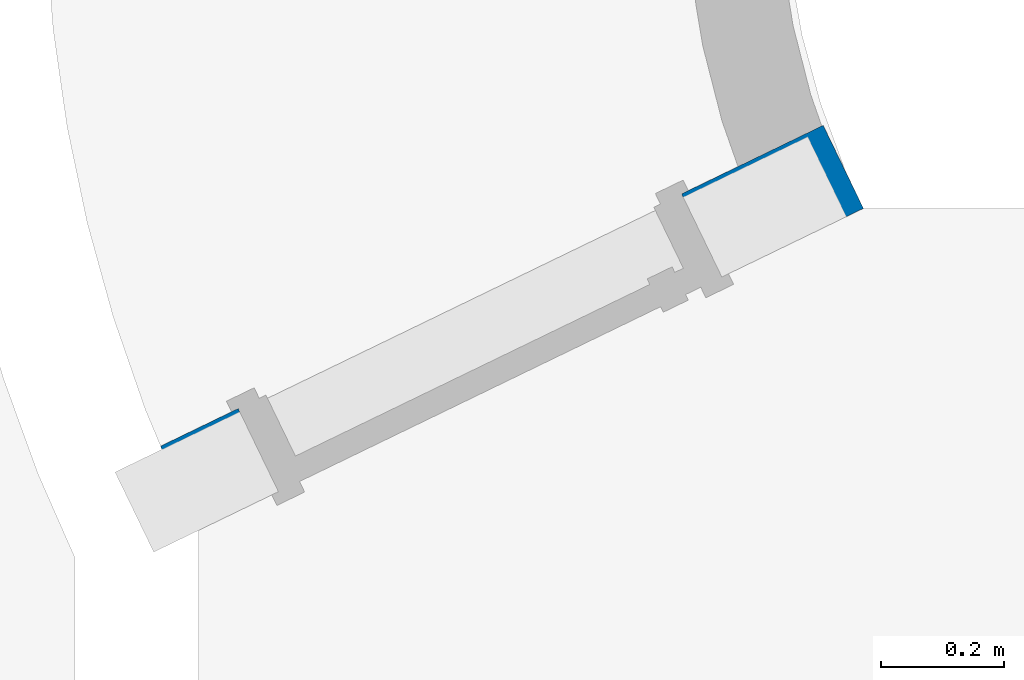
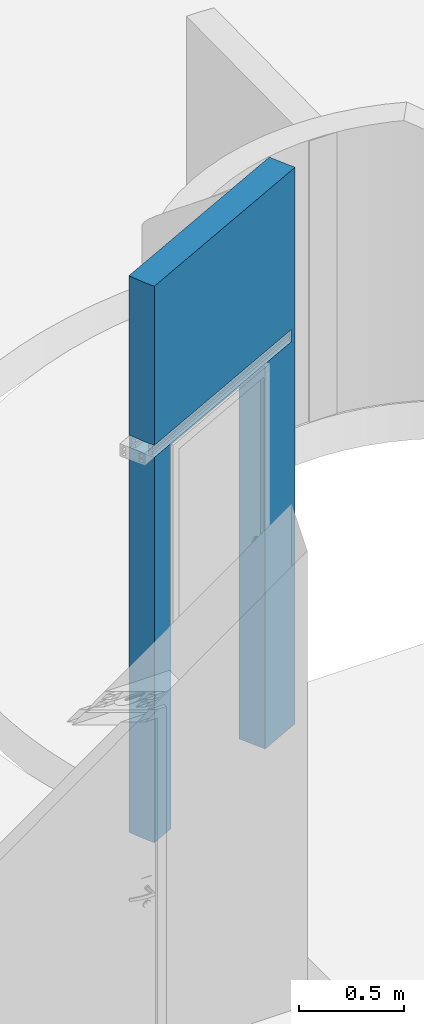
# One storey, part 15 of 21: 1 wall, 1 opening.
"""IFC4 building model written with IfcOpenShell, lengths in millimetres."""

from ifc_helpers import new_model, entity, si_unit, converted_unit, derived_unit, direction, frame, origin_with_axes, place, context, subcontext, project, spatial, polygons, material, constituent, constituent_set, type_object, element, save


model = new_model("IFC4")

# Units and contexts
model_context = context("Model", 3, precision=0.01, world=origin_with_axes(), true_north=direction((0.0, 1.0)))
body_context = subcontext(model_context, "Body", "Model", "MODEL_VIEW")
ifc_project = project(units=[si_unit("LENGTHUNIT", "METRE", prefix="MILLI"), si_unit("AREAUNIT", "SQUARE_METRE"), si_unit("VOLUMEUNIT", "CUBIC_METRE"), converted_unit("PLANEANGLEUNIT", "DEGREE", entity("IfcPlaneAngleMeasure", 0.0174532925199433), si_unit("PLANEANGLEUNIT", "RADIAN"), dimensions=[0, 0, 0, 0, 0, 0, 0]), converted_unit("TIMEUNIT", "Year", entity("IfcTimeMeasure", 31557600.0), si_unit("TIMEUNIT", "SECOND"), dimensions=[0, 0, 1, 0, 0, 0, 0]), si_unit("MASSUNIT", "GRAM", prefix="KILO"), si_unit("THERMODYNAMICTEMPERATUREUNIT", "DEGREE_CELSIUS"), si_unit("LUMINOUSINTENSITYUNIT", "LUMEN"), si_unit("ENERGYUNIT", "JOULE", prefix="MEGA"), derived_unit("THERMALCONDUCTANCEUNIT", [(si_unit("POWERUNIT", "WATT"), 1), (si_unit("LENGTHUNIT", "METRE"), -1), (si_unit("THERMODYNAMICTEMPERATUREUNIT", "KELVIN"), -1)]), derived_unit("SPECIFICHEATCAPACITYUNIT", [(si_unit("ENERGYUNIT", "JOULE"), 1), (si_unit("MASSUNIT", "GRAM", prefix="KILO"), -1), (si_unit("THERMODYNAMICTEMPERATUREUNIT", "KELVIN"), -1)]), derived_unit("MASSDENSITYUNIT", [(si_unit("MASSUNIT", "GRAM", prefix="KILO"), 1), (si_unit("VOLUMEUNIT", "CUBIC_METRE"), -1)])], contexts=[model_context])

# Site, building, storey
site_placement = place(None, origin_with_axes())
site = spatial("IfcSite", under=ifc_project, at=site_placement, Name="Exteriér", CompositionType="ELEMENT")
building_placement = place(site_placement, origin_with_axes())
building = spatial("IfcBuilding", under=site, at=building_placement, Name="Univerzitní lezecké centrum", CompositionType="ELEMENT")
storey_placement = place(building_placement, frame((0.0, 0.0, -3350.0), z_axis=(0.0, 0.0, 1.0), x_axis=(1.0, 0.0, 0.0)))
storey = spatial("IfcBuildingStorey", under=building, at=storey_placement, Name="1.PP", CompositionType="ELEMENT", Elevation=-3350.0)

# Wall, opening
ifc_material = material(Name="Keramické tvárnice nenosné tl. 150 mm")
ifc_constituent = constituent(ifc_material, Name="Keramické tvárnice nenosné tl. 150 mm")
ifc_constituent_set = constituent_set(constituents=[ifc_constituent], Name="!Vnitřní keramická stěna 150 mm - nenosná")
wall_type = type_object("IfcWallType", Name="!Vnitřní keramická stěna 150 mm - nenosná 150", PredefinedType="NOTDEFINED")
wall_placement = place(storey_placement, frame((199.7521361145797, 2610.48075613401, -220.0000000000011), z_axis=(0.0, 0.0, 1.0), x_axis=(0.9000398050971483, 0.4358076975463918, 0.0)))
wall = element("IfcWall", 1, at=wall_placement, inside=storey, type_object=wall_type, material=ifc_constituent_set, Name="Z061", PredefinedType="NOTDEFINED", context=body_context, shape_type="Tessellation", body=[
    polygons([(944.504057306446, 0.0, 220.0000000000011), (944.5040573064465, 0.0, 0.500000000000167), (944.5040573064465, 0.0, 0.0), (1199.999999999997, 0.0, 0.0), (1199.999999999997, 0.0, 3250.0), (-6.479352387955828e-06, -1.720596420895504e-05, 3250.0), (-6.479352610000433e-06, 0.0, 2321.0), (1169.504057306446, 0.0, 2321.0), (1169.504057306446, 0.0, 2250.000000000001), (-6.479352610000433e-06, 0.0, 2250.000000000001), (-6.479352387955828e-06, -1.720596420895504e-05, 0.0), (144.5040573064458, 0.0, 0.0), (144.5040573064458, 0.0, 0.500000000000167), (144.5040573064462, 0.0, 220.0000000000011), (144.5040573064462, 0.0, 2240.000000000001), (944.504057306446, 0.0, 2240.000000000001), (944.504057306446, 149.9999999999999, 220.0000000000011), (944.5040573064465, 150.0000006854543, 0.500000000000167), (944.5040573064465, 150.0000006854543, 0.0), (1199.999999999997, 149.9999999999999, 0.0), (1199.999999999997, 149.9999999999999, 3250.0), (4.462433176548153, 149.9999999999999, 3250.000000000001), (-0.6241186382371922, 56.36482273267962, 3250.000000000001), (-0.6241186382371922, 56.36482273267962, 2321.0), (1169.504057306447, 144.274998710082, 2321.0), (4.151433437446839, 144.2749987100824, 2321.0), (1169.504057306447, 144.274998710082, 2250.000000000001), (1169.504057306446, 33.33249999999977, 2280.499637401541), (1169.504057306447, 11.44250000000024, 2280.499637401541), (1169.504057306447, 11.44250000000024, 2260.499637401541), (1169.504057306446, 33.33249999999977, 2260.499637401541), (1169.504057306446, 33.33249999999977, 2310.500000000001), (1169.504057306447, 11.44250000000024, 2310.500000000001), (1169.504057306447, 11.44250000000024, 2290.5), (1169.504057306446, 33.33249999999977, 2290.5), (1169.504057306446, 110.9413637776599, 2280.499637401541), (1169.504057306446, 110.9413637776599, 2260.499637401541), (1169.504057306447, 132.8313637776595, 2260.499637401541), (1169.504057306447, 132.8313637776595, 2280.499637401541), (1169.504057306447, 132.8313637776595, 2290.5), (1169.504057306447, 132.8313637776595, 2310.500000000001), (1169.504057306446, 110.9413637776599, 2310.500000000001), (1169.504057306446, 110.9413637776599, 2290.5), (4.151433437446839, 144.2749987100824, 2250.000000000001), (-0.6241186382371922, 56.36482273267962, 2250.000000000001), (-0.6241186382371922, 56.36482273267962, 0.0), (4.462433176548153, 149.9999999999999, 0.0), (144.5040573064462, 150.0000006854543, 0.0), (144.5040573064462, 150.0000006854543, 0.500000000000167), (144.5040573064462, 149.9999999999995, 220.0000000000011), (144.5040573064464, 149.9999999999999, 2240.000000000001), (944.5040573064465, 150.0000000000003, 2240.000000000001), (-0.3690920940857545, 33.33250000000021, 2280.499637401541), (-0.1267076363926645, 11.4424999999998, 2280.499637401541), (-0.1267076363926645, 11.4424999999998, 2260.499637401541), (-0.3690920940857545, 33.33250000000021, 2260.499637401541), (-0.3690920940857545, 33.33250000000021, 2310.500000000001), (-0.1267076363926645, 11.4424999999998, 2310.500000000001), (-0.1267076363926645, 11.4424999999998, 2290.5), (-0.3690920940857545, 33.33250000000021, 2290.5), (2.34064751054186, 110.9413637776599, 2280.499637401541), (2.34064751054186, 110.9413637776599, 2260.499637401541), (3.529779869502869, 132.8313637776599, 2260.499637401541), (3.529779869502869, 132.8313637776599, 2280.499637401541), (3.529779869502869, 132.8313637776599, 2290.5), (3.529779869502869, 132.8313637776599, 2310.500000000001), (2.34064751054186, 110.9413637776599, 2310.500000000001), (2.34064751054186, 110.9413637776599, 2290.5)], [[[1, 2, 3, 4, 5, 6, 7, 8, 9, 10, 11, 12, 13, 14, 15, 16]], [[17, 18, 2, 1]], [[19, 3, 2, 18]], [[4, 3, 19, 20]], [[21, 5, 4, 20]], [[5, 21, 22, 23, 6]], [[6, 23, 24, 7]], [[25, 8, 7, 24, 26]], [[9, 8, 25, 27], [28, 29, 30, 31], [32, 33, 34, 35], [36, 37, 38, 39], [40, 41, 42, 43]], [[44, 45, 10, 9, 27]], [[46, 11, 10, 45]], [[47, 48, 12, 11, 46]], [[48, 49, 13, 12]], [[14, 13, 49, 50]], [[14, 50, 51, 15]], [[15, 51, 52, 16]], [[16, 52, 17, 1]], [[20, 19, 18, 17, 52, 51, 50, 49, 48, 47, 22, 21]], [[44, 26, 24, 23, 22, 47, 46, 45]], [[27, 25, 26, 44]], [[29, 28, 53, 54]], [[30, 29, 54, 55]], [[31, 30, 55, 56]], [[28, 31, 56, 53]], [[33, 32, 57, 58]], [[34, 33, 58, 59]], [[35, 34, 59, 60]], [[32, 35, 60, 57]], [[37, 36, 61, 62]], [[38, 37, 62, 63]], [[39, 38, 63, 64]], [[36, 39, 64, 61]], [[41, 40, 65, 66]], [[42, 41, 66, 67]], [[43, 42, 67, 68]], [[40, 43, 68, 65]], [[54, 53, 56, 55]], [[58, 57, 60, 59]], [[61, 64, 63, 62]], [[67, 66, 65, 68]]], closed=True),
])
opening_placement = place(wall_placement, frame((544.5040573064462, 0.0, 220.0000000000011), z_axis=(0.0, 0.0, 1.0), x_axis=(1.0, 0.0, 0.0)))
element("IfcOpeningElement", 2, at=opening_placement, cuts=wall, Name="D06", context=body_context, identifier="Reference", shape_type="Tessellation", body=[
    polygons([(399.9999999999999, 149.9999999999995, 0.0), (399.9999999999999, 149.999999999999, 2020.0), (400.0000000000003, 0.0, 2020.0), (399.9999999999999, 0.0, 0.0), (-399.9999999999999, 149.999999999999, 2020.0), (412.0000000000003, 149.9999999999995, 0.0), (411.9999999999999, 149.999999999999, 2032.0), (-411.9999999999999, 149.9999999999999, 2032.0), (-411.9999999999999, 149.9999999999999, 0.0), (-399.9999999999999, 149.9999999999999, 0.0), (-399.9999999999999, 0.0, 2020.0), (-400.0000000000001, 0.0, 0.0), (-411.9999999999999, 0.0, 0.0), (-411.9999999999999, 0.0, 2032.0), (411.9999999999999, 0.0, 2032.0), (411.9999999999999, 0.0, 0.0), (399.9999999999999, 621.6931301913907, 0.0), (399.9999999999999, -471.6931301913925, 0.0), (-399.9999999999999, -471.6931301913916, 0.0), (-400.0000000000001, 621.6931301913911, 0.0), (412.0000000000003, 621.6931301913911, 0.0), (411.9999999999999, 621.6931301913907, 2032.0), (-411.9999999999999, 621.6931301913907, 2032.0), (-411.9999999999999, 621.6931301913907, 0.0), (-411.9999999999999, -471.6931301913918, 0.0), (-412.0000000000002, -471.6931301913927, 2032.0), (412.0000000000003, -471.6931301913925, 2032.0), (412.0000000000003, -471.6931301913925, 0.0), (399.9999999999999, 621.6931301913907, 2020.0), (-399.9999999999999, 621.6931301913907, 2020.0)], [[[1, 2, 3, 4]], [[5, 2, 1, 6, 7, 8, 9, 10]], [[2, 5, 11, 3]], [[4, 3, 11, 12, 13, 14, 15, 16]], [[17, 1, 4, 18, 19, 12, 10, 20]], [[1, 17, 21, 6]], [[7, 6, 21, 22]], [[8, 7, 22, 23]], [[9, 8, 23, 24]], [[20, 10, 9, 24]], [[5, 10, 12, 11]], [[12, 19, 25, 13]], [[14, 13, 25, 26]], [[15, 14, 26, 27]], [[16, 15, 27, 28]], [[18, 4, 16, 28]], [[18, 28, 27, 26, 25, 19]], [[29, 17, 20, 30]], [[17, 29, 30, 20, 24, 23, 22, 21]]], closed=True),
])

save(model, "model.ifc")
